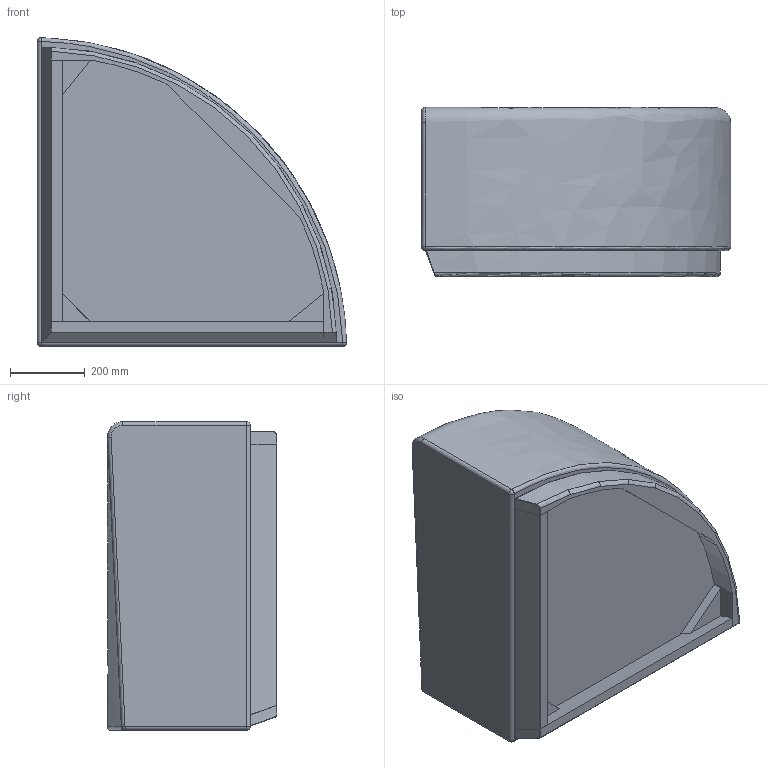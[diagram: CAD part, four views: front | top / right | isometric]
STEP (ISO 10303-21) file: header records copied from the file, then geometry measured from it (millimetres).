
FILE_DESCRIPTION(/* description */ (''),/* implementation_level */ '2;1');
FILE_NAME(/* name */ '1OH-0004 - Ohio Curved Stool - STEP (Simplified).stp',/* time_stamp */ '2025-11-12T12:52:55Z',/* author */ ('craig.ferris'),/* organization */ (''),/* preprocessor_version */ 'ST-DEVELOPER v20',/* originating_system */ 'Autodesk Inventor 2025',/* authorisation */ '');
FILE_SCHEMA (('AUTOMOTIVE_DESIGN { 1 0 10303 214 3 1 1 }'));
Length unit declared in the file: millimetre
Products named in the file (1): 1OH-0004 - Ohio Curved Stool (Simplified)
Bounding box: 826.7 x 452.18 x 825.23 mm (x, y, z)
Volume: 211386054.6 mm3; surface area: 3705620.6 mm2
Topology: 8 solids, 8 shells, 83 faces, 178 edges, 106 vertices
Faces by surface type: plane 41, cylinder 18, bspline 14, sphere 8, torus 2
Entity records: 4283 total; most frequent: CARTESIAN_POINT 2512, DIRECTION 349, ORIENTED_EDGE 346, EDGE_CURVE 173, AXIS2_PLACEMENT_3D 128, VERTEX_POINT 106, LINE 93, VECTOR 93
